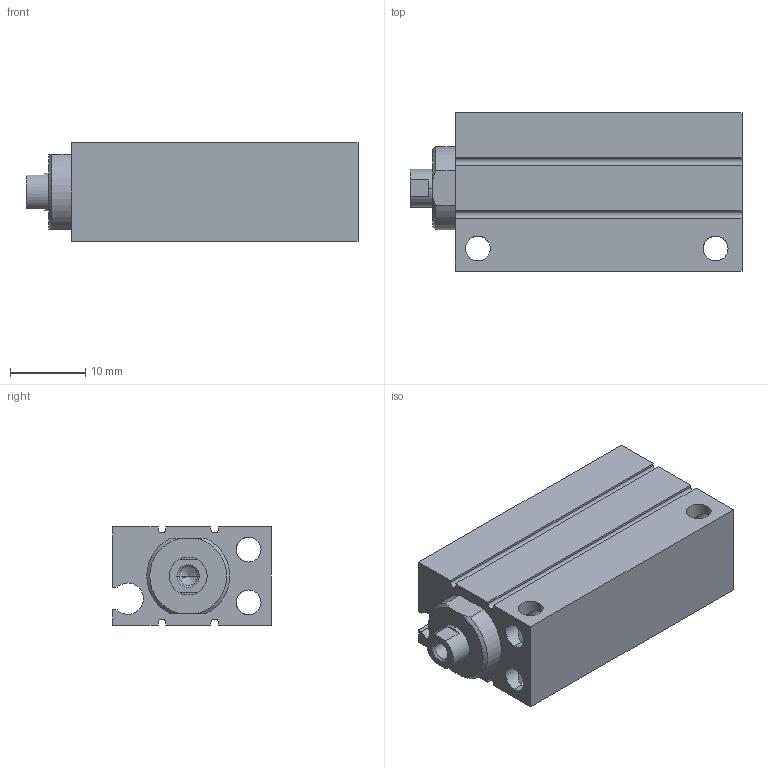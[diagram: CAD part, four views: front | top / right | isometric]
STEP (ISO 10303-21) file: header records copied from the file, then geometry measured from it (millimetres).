
FILE_DESCRIPTION (( 'STEP AP203' ), '1' );
FILE_NAME ('CLJB8-25.STEP', '2020-07-30T18:45:54', ( '' ), ( '' ), 'SwSTEP 2.0', 'SolidWorks 2019', '' );
FILE_SCHEMA (( 'CONFIG_CONTROL_DESIGN' ));
Length unit declared in the file: millimetre
Products named in the file (1): CLJB8-25
Bounding box: 44 x 21 x 13 mm (x, y, z)
Volume: 8463.1 mm3; surface area: 6100.5 mm2
Topology: 2 solids, 2 shells, 96 faces, 252 edges, 153 vertices
Faces by surface type: cylinder 49, plane 33, cone 14
Entity records: 2995 total; most frequent: CARTESIAN_POINT 604, ORIENTED_EDGE 492, DIRECTION 482, EDGE_CURVE 246, AXIS2_PLACEMENT_3D 175, VERTEX_POINT 153, LINE 132, VECTOR 132
